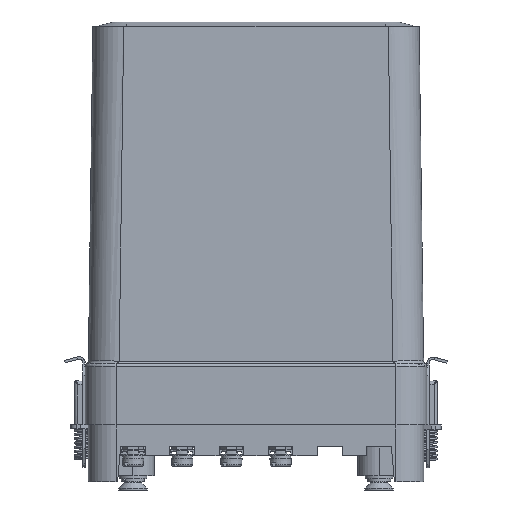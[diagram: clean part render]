
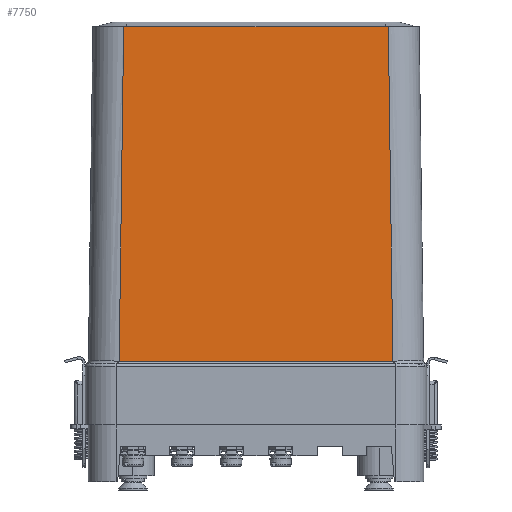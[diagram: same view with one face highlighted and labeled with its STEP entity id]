
A CAD part, left-side view. The second image highlights one B-rep face of the part: STEP entity #7750.
In plain terms, the highlighted planar face has unit normal (-1, 0, 0.013).
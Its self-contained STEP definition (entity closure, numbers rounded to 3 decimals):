
#7750=ADVANCED_FACE('',(#20937),#20939,.T.);
#20937=FACE_BOUND('',#20938,.T.);
#20938=EDGE_LOOP('',(#33216,#33217,#33218,#33219));
#20939=PLANE('',#20940);
#20940=AXIS2_PLACEMENT_3D('',#20941,#20942,#20943);
#20941=CARTESIAN_POINT('',(-30.5,-43.,149.5));
#20942=DIRECTION('',(-1.,0.,0.014));
#20943=DIRECTION('',(0.,1.,0.));
#33216=ORIENTED_EDGE('',*,*,#46719,.T.);
#33217=ORIENTED_EDGE('',*,*,#47194,.F.);
#33218=ORIENTED_EDGE('',*,*,#47195,.T.);
#33219=ORIENTED_EDGE('',*,*,#47196,.T.);
#46719=EDGE_CURVE('',#52587,#52585,#52588,.T.);
#47194=EDGE_CURVE('',#53439,#52585,#53441,.T.);
#47195=EDGE_CURVE('',#53439,#53442,#53443,.T.);
#47196=EDGE_CURVE('',#53442,#52587,#53444,.T.);
#52585=VERTEX_POINT('',#65464);
#52587=VERTEX_POINT('',#65470);
#52588=LINE('',#65471,#65472);
#53439=VERTEX_POINT('',#67829);
#53441=LINE('',#67893,#67894);
#53442=VERTEX_POINT('',#67896);
#53443=LINE('',#67897,#67898);
#53444=LINE('',#67900,#67901);
#65464=CARTESIAN_POINT('',(-31.99,-44.49,39.224));
#65470=CARTESIAN_POINT('',(-31.99,44.49,39.224));
#65471=CARTESIAN_POINT('',(-31.99,44.49,39.224));
#65472=VECTOR('',#65473,1.);
#65473=DIRECTION('',(0.,-1.,0.));
#67829=CARTESIAN_POINT('',(-30.52,-43.02,148.));
#67893=CARTESIAN_POINT('',(-30.52,-43.02,148.));
#67894=VECTOR('',#67895,1.);
#67895=DIRECTION('',(-0.014,-0.014,-1.));
#67896=CARTESIAN_POINT('',(-30.52,43.02,148.));
#67897=CARTESIAN_POINT('',(-30.52,-43.02,148.));
#67898=VECTOR('',#67899,1.);
#67899=DIRECTION('',(0.,1.,0.));
#67900=CARTESIAN_POINT('',(-30.52,43.02,148.));
#67901=VECTOR('',#67902,1.);
#67902=DIRECTION('',(-0.014,0.014,-1.));
